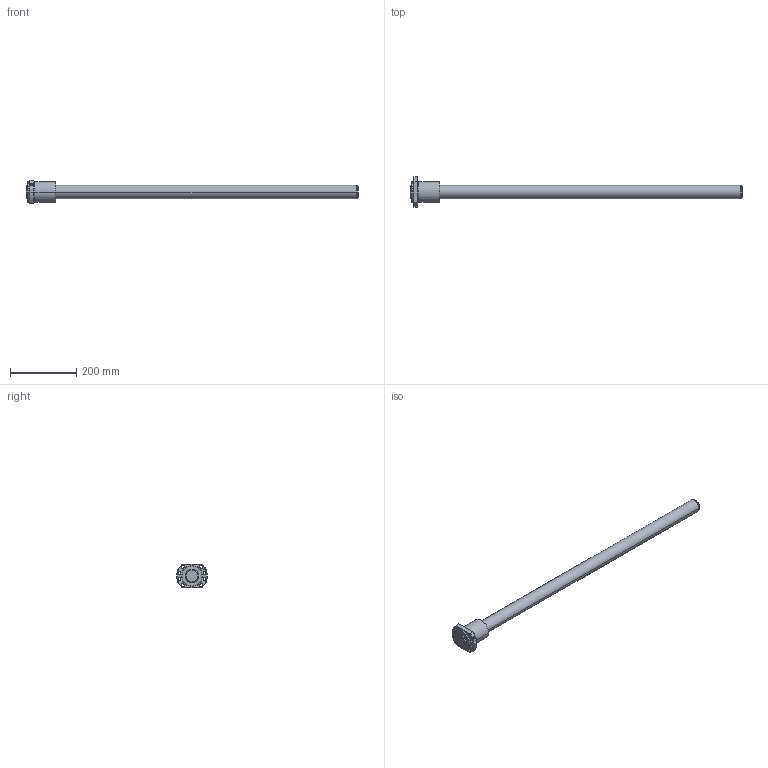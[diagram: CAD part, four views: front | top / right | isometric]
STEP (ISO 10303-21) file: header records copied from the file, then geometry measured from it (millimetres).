
FILE_DESCRIPTION( ( '' ), '1' );
FILE_NAME( 'C:/Users/v3-771-32344/Desktop/EBB STEP/EBB 4010-3 RRNone+1000L C7(906070)-ebb3.stp', '2015-08-27T13:40:49', ( '' ), ( '' ), ' ', ' ', ' ' );
FILE_SCHEMA( ( 'CONFIG_CONTROL_DESIGN' ) );
Length unit declared in the file: millimetre
Products named in the file (2): 1; 2
Bounding box: 1000 x 93 x 70 mm (x, y, z)
Volume: 1440476.2 mm3; surface area: 169927.4 mm2
Topology: 2 solids, 2 shells, 71 faces, 167 edges, 107 vertices
Faces by surface type: cylinder 40, cone 18, plane 13
Entity records: 2315 total; most frequent: CARTESIAN_POINT 497, DIRECTION 394, ORIENTED_EDGE 334, AXIS2_PLACEMENT_3D 167, EDGE_CURVE 167, VERTEX_POINT 107, EDGE_LOOP 98, CIRCLE 94
